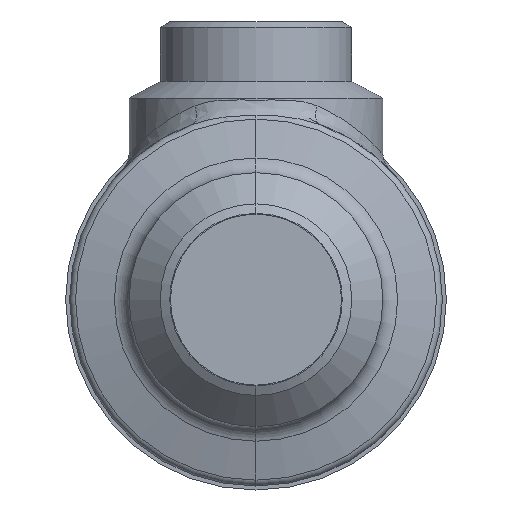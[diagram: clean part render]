
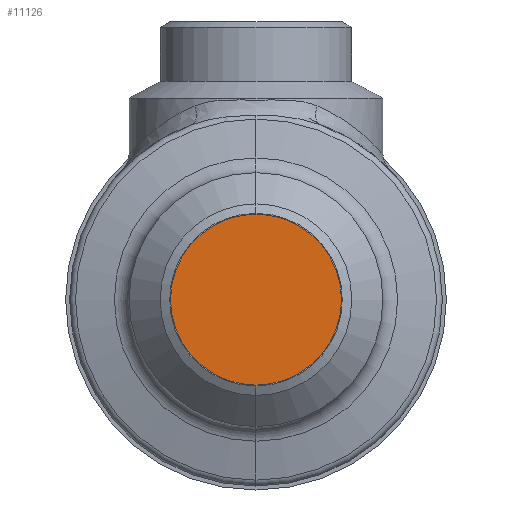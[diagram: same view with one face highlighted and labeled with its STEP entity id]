
A CAD part, front view. The second image highlights one B-rep face of the part: STEP entity #11126.
In plain terms, the highlighted planar face has unit normal (0, -1, 0) as drawn and (0, 0, 1) by its records, which use the part's own axes.
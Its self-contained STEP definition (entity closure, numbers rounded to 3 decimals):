
#360 = EDGE_LOOP ( 'NONE', ( #11293, #11258 ) ) ;
#1091 = CIRCLE ( 'NONE', #1092, 30. ) ;
#1092 = AXIS2_PLACEMENT_3D ( 'NONE', #1093, #1094, #1095 ) ;
#1093 = CARTESIAN_POINT ( 'NONE',  ( 0., 0., 54. ) ) ;
#1094 = DIRECTION ( 'NONE',  ( 0., 0., 1. ) ) ;
#1095 = DIRECTION ( 'NONE',  ( 1., 0., 0. ) ) ;
#1274 = CIRCLE ( 'NONE', #1275, 30. ) ;
#1275 = AXIS2_PLACEMENT_3D ( 'NONE', #1276, #1277, #1278 ) ;
#1276 = CARTESIAN_POINT ( 'NONE',  ( 0., 0., 54. ) ) ;
#1277 = DIRECTION ( 'NONE',  ( 0., 0., 1. ) ) ;
#1278 = DIRECTION ( 'NONE',  ( 1., 0., 0. ) ) ;
#1351 = CARTESIAN_POINT ( 'NONE',  ( 30., 0., 54. ) ) ;
#1441 = FACE_OUTER_BOUND ( 'NONE', #360, .T. ) ;
#1442 = PLANE ( 'NONE',  #1443 ) ;
#1443 = AXIS2_PLACEMENT_3D ( 'NONE', #1444, #1445, #1446 ) ;
#1444 = CARTESIAN_POINT ( 'NONE',  ( 0., 0., 54. ) ) ;
#1445 = DIRECTION ( 'NONE',  ( 0., 0., 1. ) ) ;
#1446 = DIRECTION ( 'NONE',  ( 1., 0., 0. ) ) ;
#3745 = VERTEX_POINT ( 'NONE', #1351 ) ;
#11023 = VERTEX_POINT ( 'NONE', #13302 ) ;
#11092 = EDGE_CURVE ( 'NONE', #3745, #11023, #1091, .T. ) ;
#11126 = ADVANCED_FACE ( 'NONE', ( #1441 ), #1442, .T. ) ;
#11258 = ORIENTED_EDGE ( 'NONE', *, *, #13738, .T. ) ;
#11293 = ORIENTED_EDGE ( 'NONE', *, *, #11092, .T. ) ;
#13302 = CARTESIAN_POINT ( 'NONE',  ( -30., 0., 54. ) ) ;
#13738 = EDGE_CURVE ( 'NONE', #11023, #3745, #1274, .T. ) ;
